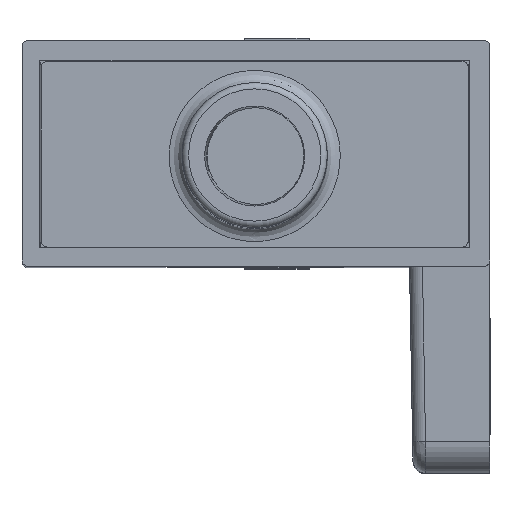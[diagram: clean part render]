
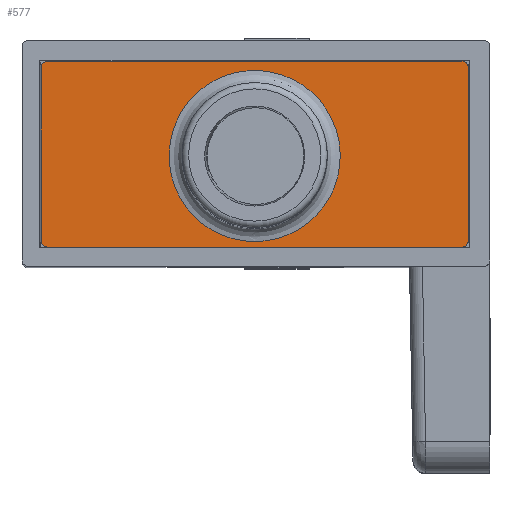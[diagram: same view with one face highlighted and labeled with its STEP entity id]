
A CAD part, top view. The second image highlights one B-rep face of the part: STEP entity #577.
In plain terms, the highlighted planar face has unit normal (0, 0, 1).
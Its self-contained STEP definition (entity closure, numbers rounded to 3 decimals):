
#109=ELLIPSE('',#7630,2.65,2.65);
#361=FACE_BOUND('',#1659,.T.);
#362=FACE_BOUND('',#1660,.T.);
#577=ADVANCED_FACE('',(#361,#362),#948,.F.);
#948=PLANE('',#7635);
#1659=EDGE_LOOP('',(#2770));
#1660=EDGE_LOOP('',(#2771,#2772,#2773,#2774,#2775,#2776,#2777,#2778));
#2047=CIRCLE('',#7631,0.2);
#2048=CIRCLE('',#7632,0.2);
#2049=CIRCLE('',#7633,0.2);
#2050=CIRCLE('',#7634,0.2);
#2770=ORIENTED_EDGE('',*,*,#5191,.T.);
#2771=ORIENTED_EDGE('',*,*,#5189,.T.);
#2772=ORIENTED_EDGE('',*,*,#5192,.F.);
#2773=ORIENTED_EDGE('',*,*,#5193,.T.);
#2774=ORIENTED_EDGE('',*,*,#5194,.F.);
#2775=ORIENTED_EDGE('',*,*,#5185,.T.);
#2776=ORIENTED_EDGE('',*,*,#5195,.F.);
#2777=ORIENTED_EDGE('',*,*,#5196,.F.);
#2778=ORIENTED_EDGE('',*,*,#5197,.F.);
#4399=VERTEX_POINT('',#10755);
#4400=VERTEX_POINT('',#10756);
#4401=VERTEX_POINT('',#10761);
#4402=VERTEX_POINT('',#10763);
#4403=VERTEX_POINT('',#10767);
#4404=VERTEX_POINT('',#10769);
#4405=VERTEX_POINT('',#10771);
#4406=VERTEX_POINT('',#10774);
#4407=VERTEX_POINT('',#10776);
#5185=EDGE_CURVE('',#4399,#4400,#6140,.T.);
#5189=EDGE_CURVE('',#4402,#4401,#6144,.T.);
#5191=EDGE_CURVE('',#4403,#4403,#109,.T.);
#5192=EDGE_CURVE('',#4404,#4401,#2047,.T.);
#5193=EDGE_CURVE('',#4404,#4405,#6146,.T.);
#5194=EDGE_CURVE('',#4399,#4405,#2048,.T.);
#5195=EDGE_CURVE('',#4406,#4400,#2049,.T.);
#5196=EDGE_CURVE('',#4407,#4406,#6147,.T.);
#5197=EDGE_CURVE('',#4402,#4407,#2050,.T.);
#6140=LINE('',#10754,#6937);
#6144=LINE('',#10762,#6941);
#6146=LINE('',#10770,#6943);
#6147=LINE('',#10775,#6944);
#6937=VECTOR('',#8647,1.);
#6941=VECTOR('',#8653,1.);
#6943=VECTOR('',#8661,1.);
#6944=VECTOR('',#8666,1.);
#7630=AXIS2_PLACEMENT_3D('',#10766,#8657,#8658);
#7631=AXIS2_PLACEMENT_3D('',#10768,#8659,#8660);
#7632=AXIS2_PLACEMENT_3D('',#10772,#8662,#8663);
#7633=AXIS2_PLACEMENT_3D('',#10773,#8664,#8665);
#7634=AXIS2_PLACEMENT_3D('',#10777,#8667,#8668);
#7635=AXIS2_PLACEMENT_3D('',#10778,#8669,#8670);
#8647=DIRECTION('',(0.,1.,0.));
#8653=DIRECTION('',(0.,-1.,0.));
#8657=DIRECTION('',(0.,0.,-1.));
#8658=DIRECTION('',(0.,-1.,0.));
#8659=DIRECTION('',(0.,0.,-1.));
#8660=DIRECTION('',(0.,-1.,0.));
#8661=DIRECTION('',(1.,0.,0.));
#8662=DIRECTION('',(0.,0.,-1.));
#8663=DIRECTION('',(1.,0.,0.));
#8664=DIRECTION('',(0.,0.,-1.));
#8665=DIRECTION('',(0.,1.,0.));
#8666=DIRECTION('',(1.,0.,0.));
#8667=DIRECTION('',(0.,0.,-1.));
#8668=DIRECTION('',(-1.,0.,0.));
#8669=DIRECTION('',(0.,0.,-1.));
#8670=DIRECTION('',(-1.,0.,0.));
#10754=CARTESIAN_POINT('',(-57.77,-3.366,14.384));
#10755=CARTESIAN_POINT('',(-57.77,-6.006,14.384));
#10756=CARTESIAN_POINT('',(-57.77,-0.646,14.384));
#10761=CARTESIAN_POINT('',(-71.01,-6.006,14.384));
#10762=CARTESIAN_POINT('',(-71.01,-3.366,14.384));
#10763=CARTESIAN_POINT('',(-71.01,-0.646,14.384));
#10766=CARTESIAN_POINT('',(-64.39,-3.384,14.384));
#10767=CARTESIAN_POINT('',(-64.39,-6.034,14.384));
#10768=CARTESIAN_POINT('',(-70.81,-6.006,14.384));
#10769=CARTESIAN_POINT('',(-70.81,-6.206,14.384));
#10770=CARTESIAN_POINT('',(-64.39,-6.206,14.384));
#10771=CARTESIAN_POINT('',(-57.97,-6.206,14.384));
#10772=CARTESIAN_POINT('',(-57.97,-6.006,14.384));
#10773=CARTESIAN_POINT('',(-57.97,-0.646,14.384));
#10774=CARTESIAN_POINT('',(-57.97,-0.446,14.384));
#10775=CARTESIAN_POINT('',(-64.39,-0.446,14.384));
#10776=CARTESIAN_POINT('',(-70.81,-0.446,14.384));
#10777=CARTESIAN_POINT('',(-70.81,-0.646,14.384));
#10778=CARTESIAN_POINT('',(-64.39,-3.366,14.384));
